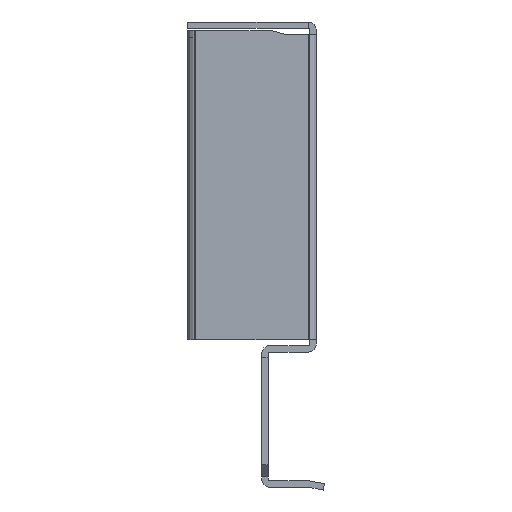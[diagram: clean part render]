
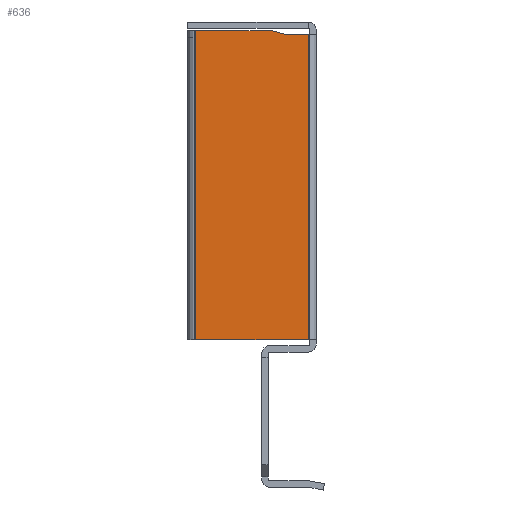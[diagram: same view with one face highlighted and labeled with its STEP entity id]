
A CAD part, left-side view. The second image highlights one B-rep face of the part: STEP entity #636.
In plain terms, the highlighted planar face has unit normal (-1, 0, 0).
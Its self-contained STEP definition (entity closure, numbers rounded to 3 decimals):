
#160 = DIRECTION ( 'NONE',  ( 0., -1., 0. ) ) ;
#161 = DIRECTION ( 'NONE',  ( -1., 0., 0. ) ) ;
#162 = CARTESIAN_POINT ( 'NONE',  ( -555., -5., 74.385 ) ) ;
#163 = PLANE ( 'NONE',  #1288 ) ;
#232 = CARTESIAN_POINT ( 'NONE',  ( -555., 9., 55.9 ) ) ;
#245 = CARTESIAN_POINT ( 'NONE',  ( -555., -0.507, 55.9 ) ) ;
#264 = CARTESIAN_POINT ( 'NONE',  ( -555., -2., 55.5 ) ) ;
#266 = CARTESIAN_POINT ( 'NONE',  ( -555., -5., 55.5 ) ) ;
#306 = CARTESIAN_POINT ( 'NONE',  ( -555., 9., 17.5 ) ) ;
#310 = CARTESIAN_POINT ( 'NONE',  ( -555., -5., 17.5 ) ) ;
#335 = VERTEX_POINT ( 'NONE', #310 ) ;
#340 = VERTEX_POINT ( 'NONE', #306 ) ;
#382 = VERTEX_POINT ( 'NONE', #266 ) ;
#383 = VERTEX_POINT ( 'NONE', #264 ) ;
#401 = VERTEX_POINT ( 'NONE', #245 ) ;
#411 = VERTEX_POINT ( 'NONE', #232 ) ;
#636 = ADVANCED_FACE ( 'NONE', ( #1707 ), #163, .T. ) ;
#866 = EDGE_LOOP ( 'NONE', ( #1602, #1603, #1604, #1605, #1606, #1607 ) ) ;
#1030 = DIRECTION ( 'NONE',  ( 0., 0., -1. ) ) ;
#1032 = CARTESIAN_POINT ( 'NONE',  ( -555., -5., 74.385 ) ) ;
#1036 = DIRECTION ( 'NONE',  ( 0., -0.966, -0.259 ) ) ;
#1040 = CARTESIAN_POINT ( 'NONE',  ( -555., 0.612, 56.2 ) ) ;
#1042 = DIRECTION ( 'NONE',  ( 0., -1., 0. ) ) ;
#1046 = CARTESIAN_POINT ( 'NONE',  ( -555., -2., 55.5 ) ) ;
#1048 = DIRECTION ( 'NONE',  ( 0., 0., -1. ) ) ;
#1052 = CARTESIAN_POINT ( 'NONE',  ( -555., 9., 74.385 ) ) ;
#1122 = EDGE_CURVE ( 'NONE', #335, #340, #1904, .T. ) ;
#1130 = EDGE_CURVE ( 'NONE', #401, #411, #1917, .T. ) ;
#1138 = EDGE_CURVE ( 'NONE', #411, #340, #1932, .T. ) ;
#1139 = EDGE_CURVE ( 'NONE', #383, #382, #1934, .T. ) ;
#1140 = EDGE_CURVE ( 'NONE', #401, #383, #1936, .T. ) ;
#1141 = EDGE_CURVE ( 'NONE', #382, #335, #1938, .T. ) ;
#1288 = AXIS2_PLACEMENT_3D ( 'NONE', #162, #161, #160 ) ;
#1602 = ORIENTED_EDGE ( 'NONE', *, *, #1139, .F. ) ;
#1603 = ORIENTED_EDGE ( 'NONE', *, *, #1140, .F. ) ;
#1604 = ORIENTED_EDGE ( 'NONE', *, *, #1130, .T. ) ;
#1605 = ORIENTED_EDGE ( 'NONE', *, *, #1138, .T. ) ;
#1606 = ORIENTED_EDGE ( 'NONE', *, *, #1122, .F. ) ;
#1607 = ORIENTED_EDGE ( 'NONE', *, *, #1141, .F. ) ;
#1707 = FACE_OUTER_BOUND ( 'NONE', #866, .T. ) ;
#1904 = LINE ( 'NONE', #2342, #1906 ) ;
#1906 = VECTOR ( 'NONE', #2341, 1000. ) ;
#1917 = LINE ( 'NONE', #2315, #1919 ) ;
#1919 = VECTOR ( 'NONE', #2314, 1000. ) ;
#1932 = LINE ( 'NONE', #1052, #1933 ) ;
#1933 = VECTOR ( 'NONE', #1048, 1000. ) ;
#1934 = LINE ( 'NONE', #1046, #1935 ) ;
#1935 = VECTOR ( 'NONE', #1042, 1000. ) ;
#1936 = LINE ( 'NONE', #1040, #1937 ) ;
#1937 = VECTOR ( 'NONE', #1036, 1000. ) ;
#1938 = LINE ( 'NONE', #1032, #1939 ) ;
#1939 = VECTOR ( 'NONE', #1030, 1000. ) ;
#2314 = DIRECTION ( 'NONE',  ( 0., 1., 0. ) ) ;
#2315 = CARTESIAN_POINT ( 'NONE',  ( -555., -5., 55.9 ) ) ;
#2341 = DIRECTION ( 'NONE',  ( 0., 1., 0. ) ) ;
#2342 = CARTESIAN_POINT ( 'NONE',  ( -555., -5., 17.5 ) ) ;
